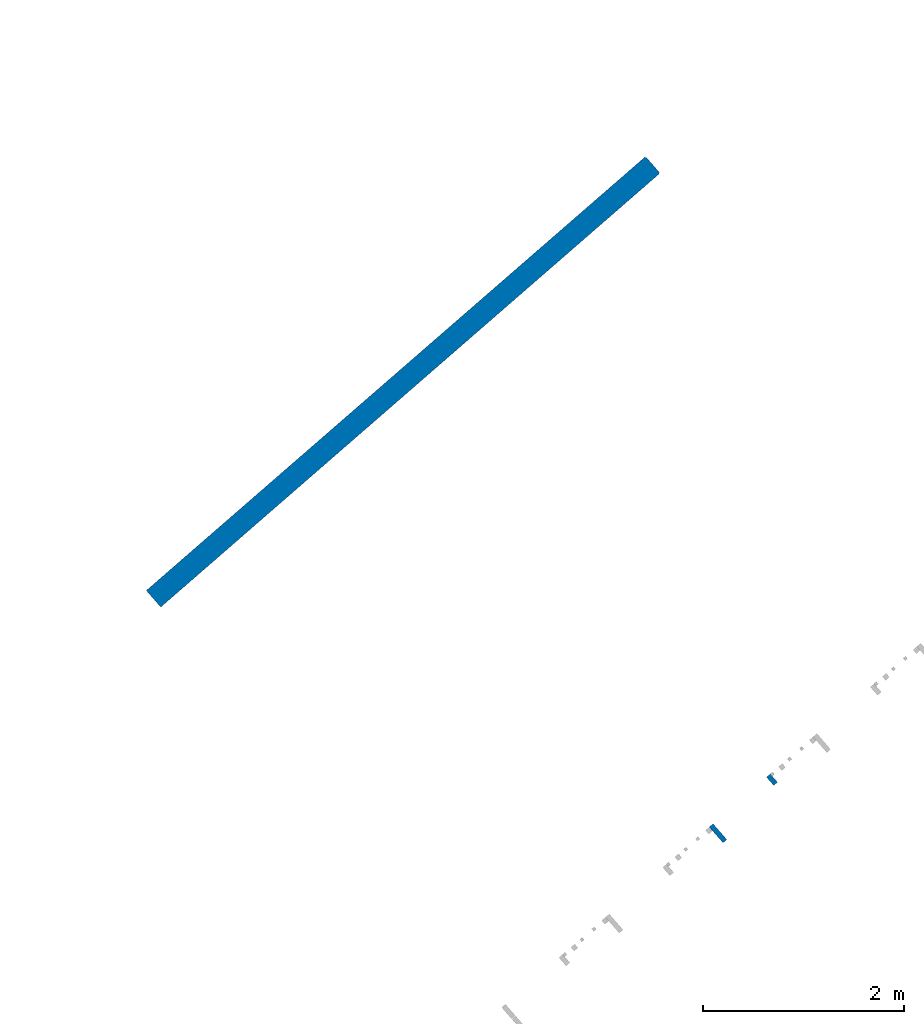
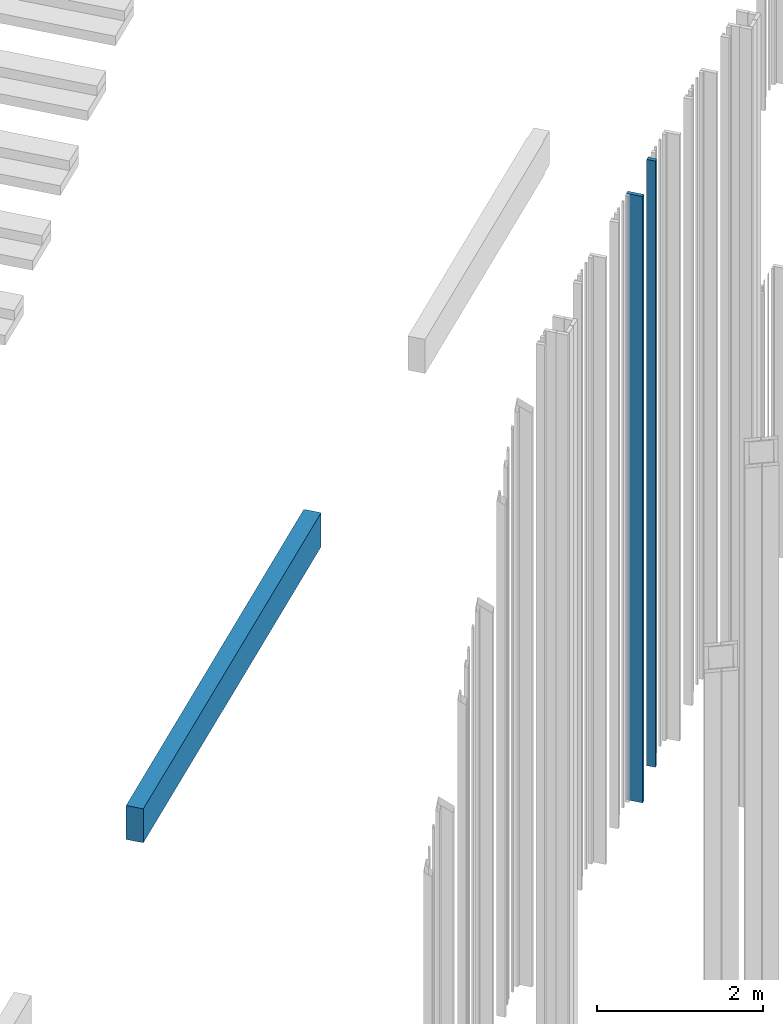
# One storey, part 251 of 390: 3 walls.
"""IFC2X3 building model written with IfcOpenShell, lengths in millimetres."""

from ifc_helpers import new_model, entity, si_unit, converted_unit, derived_unit, money_unit, direction, frame, origin_with_axes, place, context, subcontext, project, spatial, faceted_brep, material, material_list, type_object, element, save


model = new_model("IFC2X3")

# Units and contexts
model_context = context("Model", 3, precision=1e-05, world=origin_with_axes(), true_north=direction((0.0, 1.0)))
body_context = subcontext(model_context, "Body", "Model", "MODEL_VIEW")
ifc_project = project(units=[si_unit("LENGTHUNIT", "METRE", prefix="MILLI"), si_unit("AREAUNIT", "SQUARE_METRE"), si_unit("VOLUMEUNIT", "CUBIC_METRE"), converted_unit("PLANEANGLEUNIT", "DEGREE", entity("IfcPlaneAngleMeasure", 0.0174532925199), si_unit("PLANEANGLEUNIT", "RADIAN"), dimensions=[0, 0, 0, 0, 0, 0, 0]), si_unit("SOLIDANGLEUNIT", "STERADIAN"), money_unit("EUR"), converted_unit("TIMEUNIT", "Year", entity("IfcTimeMeasure", 31556926.0), si_unit("TIMEUNIT", "SECOND"), dimensions=[0, 0, 1, 0, 0, 0, 0]), si_unit("MASSUNIT", "GRAM", prefix="KILO"), si_unit("THERMODYNAMICTEMPERATUREUNIT", "DEGREE_CELSIUS"), si_unit("LUMINOUSINTENSITYUNIT", "LUMEN"), si_unit("ENERGYUNIT", "JOULE", prefix="MEGA"), derived_unit("THERMALCONDUCTANCEUNIT", [(si_unit("POWERUNIT", "WATT"), 1), (si_unit("LENGTHUNIT", "METRE"), -1), (si_unit("THERMODYNAMICTEMPERATUREUNIT", "KELVIN"), -1)]), derived_unit("SPECIFICHEATCAPACITYUNIT", [(si_unit("ENERGYUNIT", "JOULE"), 1), (si_unit("MASSUNIT", "GRAM", prefix="KILO"), -1), (si_unit("THERMODYNAMICTEMPERATUREUNIT", "KELVIN"), -1)]), derived_unit("MASSDENSITYUNIT", [(si_unit("MASSUNIT", "GRAM", prefix="KILO"), 1), (si_unit("VOLUMEUNIT", "CUBIC_METRE"), -1)])], contexts=[model_context])

# Site, building, storey
site_placement = place(None, origin_with_axes())
site = spatial("IfcSite", under=ifc_project, at=site_placement, Name="Site", CompositionType="ELEMENT")
building_placement = place(site_placement, origin_with_axes())
building = spatial("IfcBuilding", under=site, at=building_placement, Name="Building", CompositionType="ELEMENT")
storey_placement = place(building_placement, origin_with_axes())
storey = spatial("IfcBuildingStorey", under=building, at=storey_placement, Name="1 korrus", CompositionType="ELEMENT", Elevation=0.0)

# Walls
ifc_material_1 = material(Name="Krohv - Lubjakivi")
ifc_material_2 = material(Name="Raudbetoon - Konstruktsioon")
ifc_material_list = material_list([ifc_material_1, ifc_material_2, ifc_material_1])
wall_type_1 = type_object("IfcWallType", Name="SS-10", PredefinedType="NOTDEFINED")
wall_1_placement = place(storey_placement, frame((159675.894697, 90406.9726353, 885.0), z_axis=(0.0, 0.0, 1.0), x_axis=(-0.754709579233, -0.656059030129, 0.0)))
element("IfcWall", 1, at=wall_1_placement, inside=storey, type_object=wall_type_1, material=ifc_material_list, Name="SS-10", context=body_context, shape_type="Brep", body=[
    faceted_brep([(6580.00056384, -10.0, 500.0), (6580.00056384, 0.0, 500.0), (2.43901752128e-05, 0.0, 500.0), (2.32815580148e-05, -10.0, 500.0), (6580.00056384, -10.0, 0.0), (6580.00056384, 0.0, 0.0), (2.43901752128e-05, 0.0, 0.0), (2.32815580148e-05, -10.0, 0.0)], [[[0, 1, 2, 3]], [[0, 4, 5, 1]], [[1, 5, 6, 2]], [[3, 2, 6, 7]], [[4, 0, 3, 7]], [[5, 4, 7, 6]]]),
    faceted_brep([(6580.00056384, -210.0, 500.0), (6580.00056384, -10.0, 500.0), (-9.99997671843, -10.0, 500.0), (-9.99999889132, -210.0, 500.0), (6580.00056384, -210.0, 0.0), (6580.00056384, -10.0, 0.0), (-9.99997671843, -10.0, 0.0), (-9.99999889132, -210.0, 0.0)], [[[0, 1, 2, 3]], [[0, 4, 5, 1]], [[1, 5, 6, 2]], [[3, 2, 6, 7]], [[4, 0, 3, 7]], [[5, 4, 7, 6]]]),
    faceted_brep([(6580.00056384, -220.0, 500.0), (6580.00056384, -210.0, 500.0), (1.10867404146e-06, -210.0, 500.0), (0.0, -220.0, 500.0), (6580.00056384, -220.0, 0.0), (6580.00056384, -210.0, 0.0), (1.10867404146e-06, -210.0, 0.0), (0.0, -220.0, 0.0)], [[[0, 1, 2, 3]], [[0, 4, 5, 1]], [[1, 5, 6, 2]], [[3, 2, 6, 7]], [[4, 0, 3, 7]], [[5, 4, 7, 6]]]),
])
ifc_material_3 = material(Name="Site specified")
wall_type_2 = type_object("IfcWallType", Name="Puitfassaadi ribistik", PredefinedType="NOTDEFINED")
wall_2_placement = place(storey_placement, frame((160798.773733, 84371.7702342, 935.000018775), z_axis=(0.0, 0.0, 1.0), x_axis=(-0.754709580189, -0.65605902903, 0.0)))
element("IfcWall", 2, at=wall_2_placement, inside=storey, type_object=wall_type_2, material=ifc_material_3, Name="Site specified", context=body_context, shape_type="Brep", body=[
    faceted_brep([(-25.0, -54.5, 8929.99998122), (-25.0, -54.5, 0.0), (25.0, -54.5, 0.0), (25.0, -54.5, 8929.99998122), (-25.0, 54.5, 8929.99998122), (-25.0, 54.5, 0.0), (25.0, 54.5, 0.0), (25.0, 54.5, 8929.99998122)], [[[0, 1, 2, 3]], [[4, 5, 1, 0]], [[2, 1, 5, 6]], [[3, 2, 6, 7]], [[4, 0, 3, 7]], [[7, 6, 5, 4]]]),
])
wall_3_placement = place(storey_placement, frame((160261.016241, 83838.0541292, 935.000018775), z_axis=(0.0, 0.0, 1.0), x_axis=(-0.754709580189, -0.65605902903, 0.0)))
element("IfcWall", 3, at=wall_3_placement, inside=storey, type_object=wall_type_2, material=ifc_material_3, Name="Site specified", context=body_context, shape_type="Brep", body=[
    faceted_brep([(-25.0, -104.5, 8929.99998122), (-25.0, -104.5, 0.0), (25.0, -104.5, 0.0), (25.0, -104.5, 8929.99998122), (-25.0, 104.5, 8929.99998122), (-25.0, 104.5, 0.0), (25.0, 104.5, 0.0), (25.0, 104.5, 8929.99998122)], [[[0, 1, 2, 3]], [[4, 5, 1, 0]], [[2, 1, 5, 6]], [[3, 2, 6, 7]], [[4, 0, 3, 7]], [[7, 6, 5, 4]]]),
])

save(model, "model.ifc")
